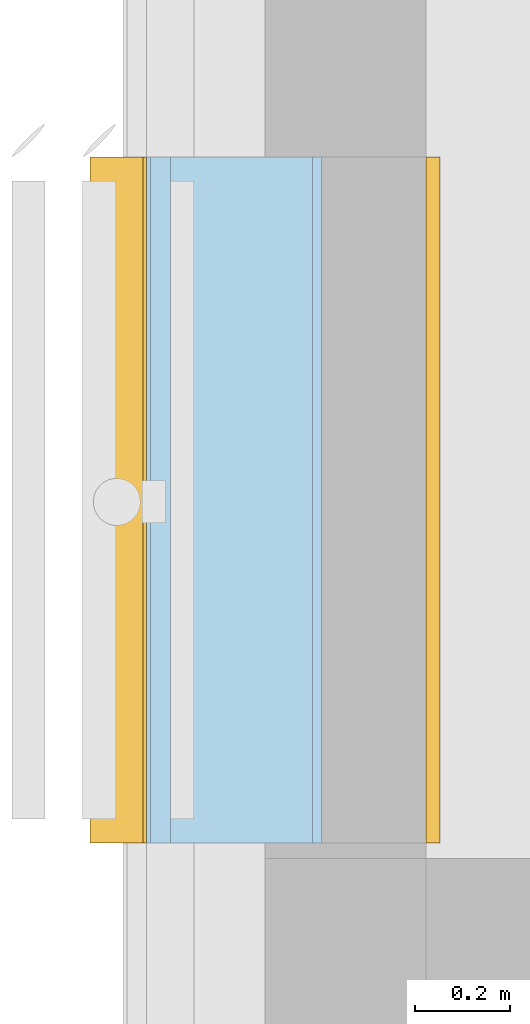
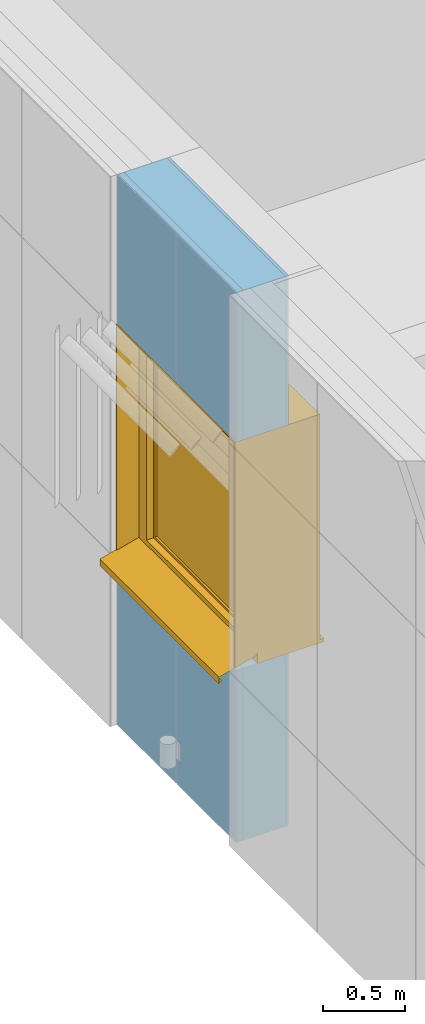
# One storey, part 127 of 418: 1 window, 2 openings, 1 element without a shape of its own, plus 4 elements that do not belong to this part.
"""IFC2X3 building model written with IfcOpenShell, lengths in millimetres."""

from ifc_helpers import new_model, entity, si_unit, converted_unit, derived_unit, money_unit, direction, frame, origin_with_axes, origin_2d_with_axis, place, context, subcontext, project, spatial, polyline, rectangle, outline, extrude, open_shell, faceted_brep, surface_model, material, type_object, element, fill, aggregate, save


model = new_model("IFC2X3")

# Units and contexts
model_context = context("Model", 3, precision=0.01, world=origin_with_axes(), true_north=direction((0.0, 1.0)))
body_context = subcontext(model_context, "Body", "Model", "MODEL_VIEW")
ifc_project = project(units=[si_unit("LENGTHUNIT", "METRE", prefix="MILLI"), si_unit("AREAUNIT", "SQUARE_METRE"), si_unit("VOLUMEUNIT", "CUBIC_METRE"), converted_unit("PLANEANGLEUNIT", "DEGREE", entity("IfcPlaneAngleMeasure", 0.0174532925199), si_unit("PLANEANGLEUNIT", "RADIAN"), dimensions=[0, 0, 0, 0, 0, 0, 0]), si_unit("SOLIDANGLEUNIT", "STERADIAN"), money_unit("EUR"), converted_unit("TIMEUNIT", "Year", entity("IfcTimeMeasure", 31556926.0), si_unit("TIMEUNIT", "SECOND"), dimensions=[0, 0, 1, 0, 0, 0, 0]), si_unit("MASSUNIT", "GRAM", prefix="KILO"), si_unit("THERMODYNAMICTEMPERATUREUNIT", "DEGREE_CELSIUS"), si_unit("LUMINOUSINTENSITYUNIT", "LUMEN"), si_unit("ENERGYUNIT", "JOULE", prefix="MEGA"), derived_unit("THERMALCONDUCTANCEUNIT", [(si_unit("POWERUNIT", "WATT"), 1), (si_unit("LENGTHUNIT", "METRE"), -1), (si_unit("THERMODYNAMICTEMPERATUREUNIT", "KELVIN"), -1)]), derived_unit("SPECIFICHEATCAPACITYUNIT", [(si_unit("ENERGYUNIT", "JOULE"), 1), (si_unit("MASSUNIT", "GRAM", prefix="KILO"), -1), (si_unit("THERMODYNAMICTEMPERATUREUNIT", "KELVIN"), -1)]), derived_unit("MASSDENSITYUNIT", [(si_unit("MASSUNIT", "GRAM", prefix="KILO"), 1), (si_unit("VOLUMEUNIT", "CUBIC_METRE"), -1)])], contexts=[model_context])

# Site, building, storey
site_placement = place(None, origin_with_axes())
site = spatial("IfcSite", under=ifc_project, at=site_placement, Name="Paldiski mnt 245/1, Tallinn, Harjumaa", CompositionType="COMPLEX")
building_placement = place(site_placement, origin_with_axes())
building = spatial("IfcBuilding", under=site, at=building_placement, Name="RKAS Hoone üldnimetus (kasutust iseloomustav) -> IFC Project Manager -> SOLIBRI", CompositionType="ELEMENT")
storey_placement = place(building_placement, origin_with_axes())
storey = spatial("IfcBuildingStorey", under=building, at=storey_placement, Name="Esimene korrus", CompositionType="ELEMENT", Elevation=0.0)

# Window
window_style = type_object("IfcWindowStyle", Name="Window 23", ConstructionType="NOTDEFINED", OperationType="SINGLE_PANEL", ParameterTakesPrecedence=False, Sizeable=False)
wall_placement = place(storey_placement, frame((-62610.0, 19579.8288003, 0.0), z_axis=(0.0, 0.0, 1.0), x_axis=(0.0, -1.0, 0.0)))
opening_1_placement = place(wall_placement, frame((725.0, 0.0, 1280.0), z_axis=(0.0, 0.0, 1.0), x_axis=(1.0, 0.0, 0.0)))
window_placement = place(opening_1_placement, frame((-725.0, 0.0, 0.0), z_axis=(0.0, 0.0, 1.0), x_axis=(1.0, 0.0, 0.0)))
window = element("IfcWindow", 1, at=window_placement, inside=storey, type_object=window_style, Name="A-06", ObjectType="WINDOW", OverallHeight=1700.0, OverallWidth=1450.0, context=body_context, shape_type="SurfaceModel", body=[
    surface_model("IfcShellBasedSurfaceModel", [(1450.0, -221.0, 75.0), (0.0, -221.0, 75.0), (0.0, -221.0, 65.0), (1450.0, -221.0, 65.0), (0.0, -490.0, -7.0), (1450.0, -490.0, -7.0), (0.0, -490.0, -57.0), (1450.0, -490.0, -57.0), (0.0, -470.0, -37.0), (1450.0, -470.0, -37.0)], [open_shell([[[0, 1, 2, 3]], [[3, 2, 4, 5]], [[5, 4, 6, 7]], [[7, 6, 8, 9]]])]),
    faceted_brep([(0.0, -135.0, 0.0), (0.0, -135.0, 25.0), (0.0, 0.0, 25.0), (0.0, 0.0, 0.0), (1450.0, -135.0, 0.0), (1450.0, -135.0, 25.0), (1450.0, 0.0, 25.0), (1450.0, 250.0, 25.0), (0.0, 250.0, 25.0), (0.0, 250.0, 0.0), (1450.0, 250.0, 0.0), (1450.0, 0.0, 0.0)], [[[0, 1, 2, 3]], [[4, 5, 1, 0]], [[1, 5, 6, 7, 8, 2]], [[3, 2, 8, 9]], [[0, 3, 9, 10, 11, 4]], [[11, 6, 5, 4]], [[10, 7, 6, 11]], [[9, 8, 7, 10]]]),
    faceted_brep([(1450.0, -135.0, 25.0), (1450.0, -135.0, 1700.0), (1424.0, -135.0, 1674.0), (1424.0, -135.0, 25.0), (1450.0, 0.0, 25.0), (1450.0, 0.0, 1700.0), (1424.0, 0.0, 1674.0), (1424.0, 0.0, 25.0)], [[[0, 1, 2, 3]], [[4, 5, 1, 0]], [[6, 2, 1, 5]], [[3, 2, 6, 7]], [[7, 4, 0, 3]], [[7, 6, 5, 4]]]),
    faceted_brep([(26.0, -135.0, 25.0), (26.0, -135.0, 1674.0), (0.0, -135.0, 1700.0), (0.0, -135.0, 25.0), (26.0, 0.0, 25.0), (26.0, 0.0, 1674.0), (0.0, 0.0, 1700.0), (0.0, 0.0, 25.0)], [[[0, 1, 2, 3]], [[4, 5, 1, 0]], [[6, 2, 1, 5]], [[3, 2, 6, 7]], [[7, 4, 0, 3]], [[7, 6, 5, 4]]]),
    faceted_brep([(1424.0, -135.0, 1674.0), (26.0, -135.0, 1674.0), (26.0, 0.0, 1674.0), (1424.0, 0.0, 1674.0), (1450.0, -135.0, 1700.0), (0.0, -135.0, 1700.0), (0.0, 0.0, 1700.0), (1450.0, 0.0, 1700.0)], [[[0, 1, 2, 3]], [[0, 4, 5, 1]], [[1, 5, 6, 2]], [[3, 2, 6, 7]], [[4, 0, 3, 7]], [[5, 4, 7, 6]]]),
    faceted_brep([(1450.0, 0.0, 25.0), (1450.0, 0.0, 1700.0), (1424.0, 0.0, 1674.0), (1424.0, 0.0, 25.0), (1450.0, 220.0, 25.0), (1450.0, 220.0, 1700.0), (1424.0, 220.0, 1674.0), (1424.0, 220.0, 25.0)], [[[0, 1, 2, 3]], [[4, 5, 1, 0]], [[5, 6, 2, 1]], [[3, 2, 6, 7]], [[7, 4, 0, 3]], [[7, 6, 5, 4]]]),
    faceted_brep([(26.0, 0.0, 25.0), (26.0, 0.0, 1674.0), (0.0, 0.0, 1700.0), (0.0, 0.0, 25.0), (26.0, 220.0, 25.0), (26.0, 220.0, 1674.0), (0.0, 220.0, 1700.0), (0.0, 220.0, 25.0)], [[[0, 1, 2, 3]], [[4, 5, 1, 0]], [[5, 6, 2, 1]], [[3, 2, 6, 7]], [[7, 4, 0, 3]], [[7, 6, 5, 4]]]),
    faceted_brep([(1450.0, 220.0, 1700.0), (1450.0, 0.0, 1700.0), (1424.0, 0.0, 1674.0), (1424.0, 220.0, 1674.0), (0.0, 220.0, 1700.0), (0.0, 0.0, 1700.0), (26.0, 0.0, 1674.0), (26.0, 220.0, 1674.0)], [[[0, 1, 2, 3]], [[4, 5, 1, 0]], [[1, 5, 6, 2]], [[3, 2, 6, 7]], [[0, 3, 7, 4]], [[7, 6, 5, 4]]]),
    faceted_brep([(1442.0, -370.0, 25.1189591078), (1442.0, -370.0, 1692.0), (1442.0, -220.0, 1692.0), (1442.0, -220.0, 75.0), (1442.0, -221.0, 75.0), (1442.0, -221.0, 65.0), (1450.0, -370.0, 25.1189591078), (1450.0, -370.0, 1700.0), (1450.0, -220.0, 1700.0), (1450.0, -220.0, 75.0), (1450.0, -221.0, 75.0), (1450.0, -221.0, 65.0)], [[[0, 1, 2, 3, 4, 5]], [[6, 7, 1, 0]], [[8, 2, 1, 7]], [[3, 2, 8, 9]], [[3, 9, 10, 4]], [[4, 10, 11, 5]], [[5, 11, 6, 0]], [[11, 10, 9, 8, 7, 6]]]),
    faceted_brep([(0.0, -370.0, 25.1189591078), (0.0, -370.0, 1700.0), (0.0, -220.0, 1700.0), (0.0, -220.0, 75.0), (0.0, -221.0, 75.0), (0.0, -221.0, 65.0), (8.0, -370.0, 25.1189591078), (8.0, -370.0, 1692.0), (8.0, -220.0, 1692.0), (8.0, -220.0, 75.0), (8.0, -221.0, 75.0), (8.0, -221.0, 65.0)], [[[0, 1, 2, 3, 4, 5]], [[6, 7, 1, 0]], [[8, 2, 1, 7]], [[3, 2, 8, 9]], [[3, 9, 10, 4]], [[4, 10, 11, 5]], [[5, 11, 6, 0]], [[11, 10, 9, 8, 7, 6]]]),
    faceted_brep([(1450.0, -220.0, 1700.0), (1450.0, -370.0, 1700.0), (1442.0, -370.0, 1692.0), (1442.0, -220.0, 1692.0), (0.0, -220.0, 1700.0), (0.0, -370.0, 1700.0), (8.0, -370.0, 1692.0), (8.0, -220.0, 1692.0)], [[[0, 1, 2, 3]], [[4, 5, 1, 0]], [[1, 5, 6, 2]], [[3, 2, 6, 7]], [[0, 3, 7, 4]], [[7, 6, 5, 4]]]),
    faceted_brep([(1442.0, -378.0, 22.9776951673), (1442.0, -378.0, 1692.0), (1442.0, -370.0, 1692.0), (1442.0, -370.0, 25.1189591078), (1450.0, -378.0, 22.9776951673), (1450.0, -378.0, 1700.0), (1450.0, -370.0, 1700.0), (1450.0, -370.0, 25.1189591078)], [[[0, 1, 2, 3]], [[4, 5, 1, 0]], [[2, 1, 5, 6]], [[3, 2, 6, 7]], [[7, 4, 0, 3]], [[7, 6, 5, 4]]]),
    faceted_brep([(0.0, -378.0, 22.9776951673), (0.0, -378.0, 1700.0), (0.0, -370.0, 1700.0), (0.0, -370.0, 25.1189591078), (8.0, -378.0, 22.9776951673), (8.0, -378.0, 1692.0), (8.0, -370.0, 1692.0), (8.0, -370.0, 25.1189591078)], [[[0, 1, 2, 3]], [[4, 5, 1, 0]], [[2, 1, 5, 6]], [[3, 2, 6, 7]], [[7, 4, 0, 3]], [[7, 6, 5, 4]]]),
    faceted_brep([(1450.0, -378.0, 1700.0), (1442.0, -378.0, 1692.0), (1442.0, -370.0, 1692.0), (1450.0, -370.0, 1700.0), (0.0, -378.0, 1700.0), (8.0, -378.0, 1692.0), (8.0, -370.0, 1692.0), (0.0, -370.0, 1700.0)], [[[0, 1, 2, 3]], [[0, 4, 5, 1]], [[1, 5, 6, 2]], [[3, 2, 6, 7]], [[4, 0, 3, 7]], [[5, 4, 7, 6]]]),
    faceted_brep([(1350.0, -170.0, 1600.0), (1350.0, -220.0, 1600.0), (1450.0, -220.0, 1600.0), (1450.0, -170.0, 1600.0), (1350.0, -170.0, 100.0), (1350.0, -220.0, 100.0), (1450.0, -220.0, 100.0), (1450.0, -170.0, 100.0)], [[[0, 1, 2, 3]], [[4, 5, 1, 0]], [[2, 1, 5, 6]], [[3, 2, 6, 7]], [[4, 0, 3, 7]], [[7, 6, 5, 4]]]),
    faceted_brep([(100.0, -170.0, 100.0), (100.0, -220.0, 100.0), (0.0, -220.0, 100.0), (0.0, -170.0, 100.0), (100.0, -170.0, 1600.0), (100.0, -220.0, 1600.0), (0.0, -220.0, 1600.0), (0.0, -170.0, 1600.0)], [[[0, 1, 2, 3]], [[4, 5, 1, 0]], [[2, 1, 5, 6]], [[3, 2, 6, 7]], [[4, 0, 3, 7]], [[7, 6, 5, 4]]]),
    faceted_brep([(1350.0, -170.0, 100.0), (1350.0, -220.0, 100.0), (1450.0, -220.0, 100.0), (1450.0, -170.0, 100.0), (100.0, -170.0, 100.0), (100.0, -220.0, 100.0), (0.0, -220.0, 100.0), (0.0, -220.0, 0.0), (1450.0, -220.0, 0.0), (1450.0, -170.0, 0.0), (0.0, -170.0, 0.0), (0.0, -170.0, 100.0)], [[[0, 1, 2, 3]], [[4, 5, 1, 0]], [[2, 1, 5, 6, 7, 8]], [[3, 2, 8, 9]], [[4, 0, 3, 9, 10, 11]], [[11, 6, 5, 4]], [[10, 7, 6, 11]], [[9, 8, 7, 10]]]),
    faceted_brep([(100.0, -170.0, 1600.0), (100.0, -220.0, 1600.0), (0.0, -220.0, 1600.0), (0.0, -170.0, 1600.0), (1350.0, -170.0, 1600.0), (1350.0, -220.0, 1600.0), (1450.0, -220.0, 1600.0), (1450.0, -220.0, 1700.0), (0.0, -220.0, 1700.0), (0.0, -170.0, 1700.0), (1450.0, -170.0, 1700.0), (1450.0, -170.0, 1600.0)], [[[0, 1, 2, 3]], [[4, 5, 1, 0]], [[2, 1, 5, 6, 7, 8]], [[3, 2, 8, 9]], [[4, 0, 3, 9, 10, 11]], [[11, 6, 5, 4]], [[10, 7, 6, 11]], [[9, 8, 7, 10]]]),
    faceted_brep([(1385.0, -135.0, 100.0), (1385.0, -135.0, 1600.0), (1450.0, -135.0, 1600.0), (1450.0, -135.0, 100.0), (1385.0, -170.0, 1600.0), (1385.0, -170.0, 100.0), (1450.0, -170.0, 1600.0), (1450.0, -170.0, 100.0)], [[[0, 1, 2, 3]], [[4, 1, 0, 5]], [[1, 4, 6, 2]], [[2, 6, 7, 3]], [[5, 0, 3, 7]], [[4, 5, 7, 6]]]),
    faceted_brep([(65.0, -170.0, 1600.0), (65.0, -135.0, 1600.0), (0.0, -135.0, 1600.0), (0.0, -170.0, 1600.0), (65.0, -135.0, 100.0), (65.0, -170.0, 100.0), (0.0, -135.0, 100.0), (0.0, -170.0, 100.0)], [[[0, 1, 2, 3]], [[4, 1, 0, 5]], [[1, 4, 6, 2]], [[6, 7, 3, 2]], [[5, 0, 3, 7]], [[4, 5, 7, 6]]]),
    faceted_brep([(65.0, -170.0, 100.0), (65.0, -135.0, 100.0), (0.0, -135.0, 100.0), (0.0, -170.0, 100.0), (65.0, -135.0, 65.0), (65.0, -170.0, 65.0), (1385.0, -135.0, 65.0), (1385.0, -135.0, 100.0), (1450.0, -135.0, 100.0), (1450.0, -135.0, 0.0), (0.0, -135.0, 0.0), (0.0, -170.0, 0.0), (1450.0, -170.0, 0.0), (1450.0, -170.0, 100.0), (1385.0, -170.0, 100.0), (1385.0, -170.0, 65.0)], [[[0, 1, 2, 3]], [[4, 1, 0, 5]], [[6, 7, 8, 9, 10, 2, 1, 4]], [[10, 11, 3, 2]], [[5, 0, 3, 11, 12, 13, 14, 15]], [[6, 4, 5, 15]], [[14, 7, 6, 15]], [[7, 14, 13, 8]], [[8, 13, 12, 9]], [[9, 12, 11, 10]]]),
    faceted_brep([(1385.0, -135.0, 1600.0), (1385.0, -135.0, 1635.0), (65.0, -135.0, 1635.0), (65.0, -135.0, 1600.0), (0.0, -135.0, 1600.0), (0.0, -135.0, 1700.0), (1450.0, -135.0, 1700.0), (1450.0, -135.0, 1600.0), (1385.0, -170.0, 1600.0), (1385.0, -170.0, 1635.0), (65.0, -170.0, 1635.0), (65.0, -170.0, 1600.0), (0.0, -170.0, 1600.0), (0.0, -170.0, 1700.0), (1450.0, -170.0, 1700.0), (1450.0, -170.0, 1600.0)], [[[0, 1, 2, 3, 4, 5, 6, 7]], [[1, 0, 8, 9]], [[2, 1, 9, 10]], [[3, 2, 10, 11]], [[3, 11, 12, 4]], [[4, 12, 13, 5]], [[5, 13, 14, 6]], [[6, 14, 15, 7]], [[8, 0, 7, 15]], [[9, 8, 15, 14, 13, 12, 11, 10]]]),
    faceted_brep([(74.0, -120.0, 877.0), (75.3397459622, -120.0, 882.0), (75.3397459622, -108.0, 882.0), (74.0, -108.0, 877.0), (74.0, -120.0, 823.0), (75.3397459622, -120.0, 818.0), (79.0, -120.0, 814.339745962), (84.0, -120.0, 813.0), (96.0, -120.0, 813.0), (101.0, -120.0, 814.339745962), (104.660254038, -120.0, 818.0), (106.0, -120.0, 823.0), (106.0, -120.0, 877.0), (104.660254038, -120.0, 882.0), (101.0, -120.0, 885.660254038), (96.0, -120.0, 887.0), (84.0, -120.0, 887.0), (79.0, -120.0, 885.660254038), (79.0, -108.0, 885.660254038), (84.0, -108.0, 887.0), (96.0, -108.0, 887.0), (101.0, -108.0, 885.660254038), (104.660254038, -108.0, 882.0), (106.0, -108.0, 877.0), (106.0, -108.0, 823.0), (104.660254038, -108.0, 818.0), (101.0, -108.0, 814.339745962), (96.0, -108.0, 813.0), (84.0, -108.0, 813.0), (79.0, -108.0, 814.339745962), (75.3397459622, -108.0, 818.0), (74.0, -108.0, 823.0)], [[[0, 1, 2, 3]], [[0, 4, 5, 6, 7, 8, 9, 10, 11, 12, 13, 14, 15, 16, 17, 1]], [[1, 17, 18, 2]], [[3, 2, 18, 19, 20, 21, 22, 23, 24, 25, 26, 27, 28, 29, 30, 31]], [[4, 0, 3, 31]], [[5, 4, 31, 30]], [[6, 5, 30, 29]], [[7, 6, 29, 28]], [[8, 7, 28, 27]], [[9, 8, 27, 26]], [[10, 9, 26, 25]], [[11, 10, 25, 24]], [[12, 11, 24, 23]], [[13, 12, 23, 22]], [[14, 13, 22, 21]], [[15, 14, 21, 20]], [[16, 15, 20, 19]], [[17, 16, 19, 18]]]),
    faceted_brep([(90.0, -108.0, 863.5), (96.75, -108.0, 861.691342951), (96.75, -84.0, 861.691342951), (90.0, -84.0, 863.5), (83.25, -108.0, 861.691342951), (78.3086570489, -108.0, 856.75), (76.5, -108.0, 850.0), (78.3086570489, -108.0, 843.25), (83.25, -108.0, 838.308657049), (90.0, -108.0, 836.5), (96.75, -108.0, 838.308657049), (101.691342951, -108.0, 843.25), (103.5, -108.0, 850.0), (101.691342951, -108.0, 856.75), (101.691342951, -84.0, 856.75), (103.5, -84.0, 850.0), (101.691342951, -84.0, 843.25), (96.75, -84.0, 838.308657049), (90.0, -84.0, 836.5), (83.25, -84.0, 838.308657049), (78.3086570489, -84.0, 843.25), (76.5, -84.0, 850.0), (78.3086570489, -84.0, 856.75), (83.25, -84.0, 861.691342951)], [[[0, 1, 2, 3]], [[0, 4, 5, 6, 7, 8, 9, 10, 11, 12, 13, 1]], [[1, 13, 14, 2]], [[3, 2, 14, 15, 16, 17, 18, 19, 20, 21, 22, 23]], [[4, 0, 3, 23]], [[5, 4, 23, 22]], [[6, 5, 22, 21]], [[7, 6, 21, 20]], [[8, 7, 20, 19]], [[9, 8, 19, 18]], [[10, 9, 18, 17]], [[11, 10, 17, 16]], [[12, 11, 16, 15]], [[13, 12, 15, 14]]]),
    faceted_brep([(78.5, -84.0, 743.0), (90.0, -84.0, 740.0), (101.5, -84.0, 743.0), (103.5, -84.0, 746.0), (103.5, -84.0, 850.0), (101.691342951, -84.0, 856.75), (96.75, -84.0, 861.691342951), (90.0, -84.0, 863.5), (83.25, -84.0, 861.691342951), (78.3086570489, -84.0, 856.75), (76.5, -84.0, 850.0), (76.5, -84.0, 746.0), (78.4999999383, -76.0, 743.000000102), (89.9999999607, -76.0, 739.99999961), (101.499999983, -76.0, 743.000000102), (103.500000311, -76.0, 745.999999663), (103.500000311, -76.0, 849.999999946), (101.691343, -76.0, 856.749999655), (96.7499996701, -76.0, 861.691342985), (89.9999999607, -76.0, 863.500000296), (83.2500002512, -76.0, 861.691342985), (78.3086569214, -76.0, 856.749999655), (76.4999996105, -76.0, 849.999999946), (76.4999996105, -76.0, 745.999999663), (80.3625374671, -73.0000004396, 745.614519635), (89.9999999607, -73.0000004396, 743.100398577), (99.6374624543, -73.0000004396, 745.614519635), (100.50000075, -73.0000004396, 746.908326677), (100.50000075, -73.0000004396, 849.605042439), (99.0016170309, -73.0000004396, 855.197085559), (95.1970855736, -73.0000004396, 859.001617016), (89.9999999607, -73.0000004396, 860.394172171), (84.8029143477, -73.0000004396, 859.001617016), (80.9983828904, -73.0000004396, 855.197085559), (79.4999991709, -73.0000004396, 849.605042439), (79.4999991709, -73.0000004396, 746.908326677)], [[[0, 1, 2, 3, 4, 5, 6, 7, 8, 9, 10, 11]], [[1, 0, 12, 13]], [[2, 1, 13, 14]], [[3, 2, 14, 15]], [[4, 3, 15, 16]], [[5, 4, 16, 17]], [[6, 5, 17, 18]], [[7, 6, 18, 19]], [[8, 7, 19, 20]], [[9, 8, 20, 21]], [[10, 9, 21, 22]], [[11, 10, 22, 23]], [[0, 11, 23, 12]], [[13, 12, 24, 25]], [[14, 13, 25, 26]], [[15, 14, 26, 27]], [[16, 15, 27, 28]], [[17, 16, 28, 29]], [[18, 17, 29, 30]], [[19, 18, 30, 31]], [[20, 19, 31, 32]], [[21, 20, 32, 33]], [[22, 21, 33, 34]], [[23, 22, 34, 35]], [[12, 23, 35, 24]], [[26, 25, 24, 35, 34, 33, 32, 31, 30, 29, 28, 27]]]),
    faceted_brep([(1335.0, -170.0, 1585.0), (1385.0, -170.0, 1585.0), (1385.0, -155.0, 1585.0), (1335.0, -155.0, 1585.0), (1335.0, -170.0, 115.0), (1385.0, -170.0, 115.0), (1385.0, -155.0, 115.0), (1335.0, -155.0, 115.0)], [[[0, 1, 2, 3]], [[0, 4, 5, 1]], [[1, 5, 6, 2]], [[3, 2, 6, 7]], [[4, 0, 3, 7]], [[5, 4, 7, 6]]]),
    faceted_brep([(115.0, -170.0, 115.0), (65.0, -170.0, 115.0), (65.0, -155.0, 115.0), (115.0, -155.0, 115.0), (115.0, -170.0, 1585.0), (65.0, -170.0, 1585.0), (65.0, -155.0, 1585.0), (115.0, -155.0, 1585.0)], [[[0, 1, 2, 3]], [[0, 4, 5, 1]], [[1, 5, 6, 2]], [[3, 2, 6, 7]], [[4, 0, 3, 7]], [[5, 4, 7, 6]]]),
    faceted_brep([(65.0, -170.0, 65.0), (65.0, -170.0, 115.0), (65.0, -155.0, 115.0), (65.0, -155.0, 65.0), (1385.0, -170.0, 65.0), (1385.0, -170.0, 115.0), (1335.0, -170.0, 115.0), (115.0, -170.0, 115.0), (115.0, -155.0, 115.0), (1335.0, -155.0, 115.0), (1385.0, -155.0, 115.0), (1385.0, -155.0, 65.0)], [[[0, 1, 2, 3]], [[0, 4, 5, 6, 7, 1]], [[1, 7, 8, 2]], [[3, 2, 8, 9, 10, 11]], [[4, 0, 3, 11]], [[5, 4, 11, 10]], [[6, 5, 10, 9]], [[7, 6, 9, 8]]]),
    faceted_brep([(1385.0, -170.0, 1635.0), (1385.0, -170.0, 1585.0), (1385.0, -155.0, 1585.0), (1385.0, -155.0, 1635.0), (65.0, -170.0, 1635.0), (65.0, -170.0, 1585.0), (115.0, -170.0, 1585.0), (1335.0, -170.0, 1585.0), (1335.0, -155.0, 1585.0), (115.0, -155.0, 1585.0), (65.0, -155.0, 1585.0), (65.0, -155.0, 1635.0)], [[[0, 1, 2, 3]], [[0, 4, 5, 6, 7, 1]], [[1, 7, 8, 2]], [[3, 2, 8, 9, 10, 11]], [[4, 0, 3, 11]], [[5, 4, 11, 10]], [[6, 5, 10, 9]], [[7, 6, 9, 8]]]),
    faceted_brep([(1335.0, -155.0, 1585.0), (1385.0, -155.0, 1585.0), (1385.0, -120.0, 1585.0), (1335.0, -120.0, 1585.0), (1335.0, -155.0, 115.0), (1385.0, -155.0, 115.0), (1385.0, -120.0, 115.0), (1335.0, -120.0, 115.0)], [[[0, 1, 2, 3]], [[0, 4, 5, 1]], [[1, 5, 6, 2]], [[3, 2, 6, 7]], [[4, 0, 3, 7]], [[5, 4, 7, 6]]]),
    faceted_brep([(115.0, -155.0, 115.0), (65.0, -155.0, 115.0), (65.0, -120.0, 115.0), (115.0, -120.0, 115.0), (115.0, -155.0, 1585.0), (65.0, -155.0, 1585.0), (65.0, -120.0, 1585.0), (115.0, -120.0, 1585.0)], [[[0, 1, 2, 3]], [[0, 4, 5, 1]], [[1, 5, 6, 2]], [[3, 2, 6, 7]], [[4, 0, 3, 7]], [[5, 4, 7, 6]]]),
    faceted_brep([(65.0, -155.0, 65.0), (65.0, -155.0, 115.0), (65.0, -120.0, 115.0), (65.0, -120.0, 65.0), (1385.0, -155.0, 65.0), (1385.0, -155.0, 115.0), (1335.0, -155.0, 115.0), (115.0, -155.0, 115.0), (115.0, -120.0, 115.0), (1335.0, -120.0, 115.0), (1385.0, -120.0, 115.0), (1385.0, -120.0, 65.0)], [[[0, 1, 2, 3]], [[0, 4, 5, 6, 7, 1]], [[1, 7, 8, 2]], [[3, 2, 8, 9, 10, 11]], [[4, 0, 3, 11]], [[5, 4, 11, 10]], [[6, 5, 10, 9]], [[7, 6, 9, 8]]]),
    faceted_brep([(1385.0, -155.0, 1635.0), (1385.0, -155.0, 1585.0), (1385.0, -120.0, 1585.0), (1385.0, -120.0, 1635.0), (65.0, -155.0, 1635.0), (65.0, -155.0, 1585.0), (115.0, -155.0, 1585.0), (1335.0, -155.0, 1585.0), (1335.0, -120.0, 1585.0), (115.0, -120.0, 1585.0), (65.0, -120.0, 1585.0), (65.0, -120.0, 1635.0)], [[[0, 1, 2, 3]], [[0, 4, 5, 6, 7, 1]], [[1, 7, 8, 2]], [[3, 2, 8, 9, 10, 11]], [[4, 0, 3, 11]], [[5, 4, 11, 10]], [[6, 5, 10, 9]], [[7, 6, 9, 8]]]),
    surface_model("IfcShellBasedSurfaceModel", [(1335.0, -155.0, 115.0), (1335.0, -155.0, 1585.0), (115.0, -155.0, 1585.0), (115.0, -155.0, 115.0)], [open_shell([[[0, 1, 2, 3]]])]),
    surface_model("IfcShellBasedSurfaceModel", [(1335.0, -135.0, 115.0), (115.0, -135.0, 115.0), (115.0, -135.0, 1585.0), (1335.0, -135.0, 1585.0)], [open_shell([[[0, 1, 2, 3]]])]),
])

# Wall, opening
wall_type = type_object("IfcWallType", Name="VS-05D_uued_kihid 370", PredefinedType="NOTDEFINED")
wall = element("IfcWall", 2, at=wall_placement, inside=storey, type_object=wall_type, Name="VS-05")
opening_1 = element("IfcOpeningElement", 3, at=opening_1_placement, cuts=wall, Name="A-06", context=body_context, shape_type="SweptSolid", body=[
    extrude(rectangle(XDim=1450.0, YDim=1700.0, at=origin_2d_with_axis()), frame((0.0, -220.0, 850.0), z_axis=(0.0, 1.0, 0.0), x_axis=(-1.0, 0.0, 0.0)), (0.0, 0.0, 1.0), 590.0),
    extrude(rectangle(XDim=1450.0, YDim=1700.0, at=origin_2d_with_axis()), frame((0.0, -220.0, 850.0), z_axis=(0.0, -1.0, 0.0), x_axis=(-1.0, 0.0, 0.0)), (0.0, 0.0, 1.0), 520.0),
    extrude(rectangle(XDim=1450.0, YDim=1700.0, at=origin_2d_with_axis()), frame((0.0, 0.0, 850.0), z_axis=(0.0, 1.0, 0.0), x_axis=(-1.0, 0.0, 0.0)), (0.0, 0.0, 1.0), 520.0),
    extrude(rectangle(XDim=1450.0, YDim=1708.0, at=origin_2d_with_axis()), frame((0.0, -370.0, 846.0), z_axis=(0.0, -1.0, 0.0), x_axis=(-1.0, 0.0, 0.0)), (0.0, 0.0, 1.0), 520.0),
])

fill(opening_1, window)

# Opening
opening_2_placement = place(wall_placement, frame((725.0, 0.0, 0.0), z_axis=(0.0, 0.0, 1.0), x_axis=(1.0, 0.0, 0.0)))
element("IfcOpeningElement", 4, at=opening_2_placement, cuts=wall, Name="Cembrit fassaadiplaadi vuuk", context=body_context, shape_type="SweptSolid", body=[
    extrude(outline(polyline([(-3.99999999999, 0.0), (4.00000000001, 0.0), (4.00000000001, 4090.0), (-3.99999999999, 4090.0), (-3.99999999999, 0.0)])), frame((0.0, -362.0, 0.0), z_axis=(0.0, 1.0, 0.0), x_axis=(-1.0, 0.0, 0.0)), (0.0, 0.0, -1.0), 378.0),
])

# Building element part
ifc_material_1 = material(Name="Cembrit_C060")
building_element_part_1_placement = place(wall_placement, origin_with_axes())
building_element_part_1 = element("IfcBuildingElementPart", 5, at=building_element_part_1_placement, material=ifc_material_1, Name="Cembrit_C060", context=body_context, shape_type="SweptSolid", body=[
    extrude(outline(polyline([(0.0, -370.0), (1450.0, -370.0), (1450.0, -362.0), (0.0, -362.0), (0.0, -370.0)])), origin_with_axes(), (0.0, 0.0, 1.0), 4090.0),
])

ifc_material_2 = material(Name="VKR-06_Õhkvahe")
building_element_part_2_placement = place(wall_placement, origin_with_axes())
building_element_part_2 = element("IfcBuildingElementPart", 6, at=building_element_part_2_placement, material=ifc_material_2, Name="VKR-06_Õhkvahe", context=body_context, shape_type="SweptSolid", body=[
    extrude(outline(polyline([(0.0, -362.0), (1450.0, -362.0), (1450.0, -320.0), (0.0, -320.0), (0.0, -362.0)])), origin_with_axes(), (0.0, 0.0, 1.0), 4090.0),
])

ifc_material_3 = material(Name="Kingspan Kooltherm")
building_element_part_3_placement = place(wall_placement, origin_with_axes())
building_element_part_3 = element("IfcBuildingElementPart", 7, at=building_element_part_3_placement, material=ifc_material_3, Name="Kingspan Kooltherm", context=body_context, shape_type="SweptSolid", body=[
    extrude(outline(polyline([(0.0, -320.0), (1450.0, -320.0), (1450.0, -20.0), (0.0, -20.0), (0.0, -320.0)])), origin_with_axes(), (0.0, 0.0, 1.0), 4090.0),
])

ifc_material_4 = material(Name="Tasanduskrohv")
building_element_part_4_placement = place(wall_placement, origin_with_axes())
building_element_part_4 = element("IfcBuildingElementPart", 8, at=building_element_part_4_placement, material=ifc_material_4, Name="Tasanduskrohv", context=body_context, shape_type="SweptSolid", body=[
    extrude(outline(polyline([(0.0, -20.0), (1450.0, -20.0), (1450.0, 0.0), (0.0, 0.0), (0.0, -20.0)])), origin_with_axes(), (0.0, 0.0, 1.0), 4090.0),
])

aggregate(wall, [building_element_part_1, building_element_part_2, building_element_part_3, building_element_part_4])

save(model, "model.ifc")
